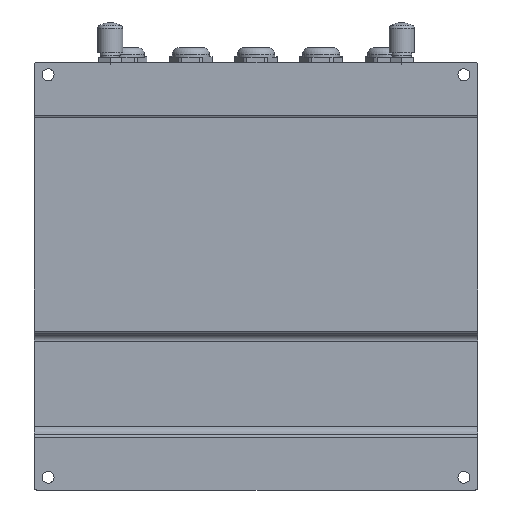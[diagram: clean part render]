
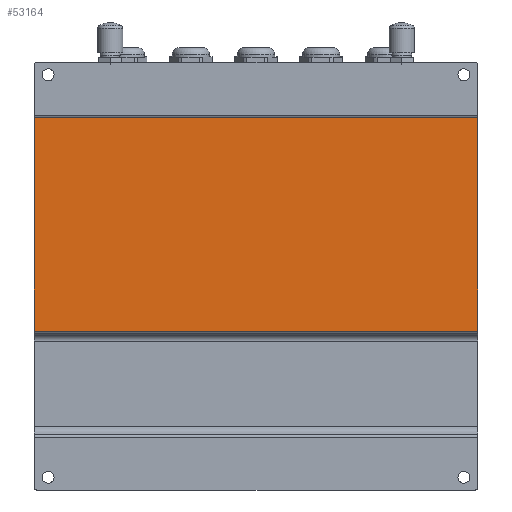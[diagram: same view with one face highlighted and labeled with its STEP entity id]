
A CAD part, front view. The second image highlights one B-rep face of the part: STEP entity #53164.
In plain terms, the highlighted planar face has unit normal (0, -1, 0).
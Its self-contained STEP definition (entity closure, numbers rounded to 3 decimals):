
#7402 = VECTOR ( 'NONE', #81694, 1000. ) ;
#14380 = FACE_OUTER_BOUND ( 'NONE', #128368, .T. ) ;
#15599 = CARTESIAN_POINT ( 'NONE',  ( -167., -19., 119.423 ) ) ;
#19069 = VECTOR ( 'NONE', #131143, 1000. ) ;
#37580 = EDGE_CURVE ( 'NONE', #41676, #154436, #71175, .T. ) ;
#41676 = VERTEX_POINT ( 'NONE', #135041 ) ;
#42512 = PLANE ( 'NONE',  #57173 ) ;
#53164 = ADVANCED_FACE ( 'NONE', ( #14380 ), #42512, .F. ) ;
#54483 = CARTESIAN_POINT ( 'NONE',  ( -167., -19., 119.423 ) ) ;
#54524 = DIRECTION ( 'NONE',  ( 0., 1., 0. ) ) ;
#57173 = AXIS2_PLACEMENT_3D ( 'NONE', #114373, #54524, #138542 ) ;
#59630 = VERTEX_POINT ( 'NONE', #116086 ) ;
#60858 = LINE ( 'NONE', #54483, #120937 ) ;
#66630 = DIRECTION ( 'NONE',  ( 0., 0., 1. ) ) ;
#66939 = CARTESIAN_POINT ( 'NONE',  ( 167., -19., 119.423 ) ) ;
#69656 = CARTESIAN_POINT ( 'NONE',  ( 167., -19., 119.423 ) ) ;
#71175 = LINE ( 'NONE', #69656, #7402 ) ;
#81694 = DIRECTION ( 'NONE',  ( 0., 0., 1. ) ) ;
#90290 = ORIENTED_EDGE ( 'NONE', *, *, #125431, .F. ) ;
#91371 = ORIENTED_EDGE ( 'NONE', *, *, #106346, .F. ) ;
#93698 = VERTEX_POINT ( 'NONE', #15599 ) ;
#106346 = EDGE_CURVE ( 'NONE', #93698, #154436, #142934, .T. ) ;
#109258 = EDGE_CURVE ( 'NONE', #59630, #41676, #115694, .T. ) ;
#114373 = CARTESIAN_POINT ( 'NONE',  ( -167., -19., 119.423 ) ) ;
#115694 = LINE ( 'NONE', #123573, #145964 ) ;
#116086 = CARTESIAN_POINT ( 'NONE',  ( -167., -19., -41.423 ) ) ;
#119025 = CARTESIAN_POINT ( 'NONE',  ( -167., -19., 119.423 ) ) ;
#120937 = VECTOR ( 'NONE', #66630, 1000. ) ;
#123573 = CARTESIAN_POINT ( 'NONE',  ( -167., -19., -41.423 ) ) ;
#125431 = EDGE_CURVE ( 'NONE', #59630, #93698, #60858, .T. ) ;
#128368 = EDGE_LOOP ( 'NONE', ( #149436, #91371, #90290, #133626 ) ) ;
#131143 = DIRECTION ( 'NONE',  ( 1., 0., 0. ) ) ;
#133626 = ORIENTED_EDGE ( 'NONE', *, *, #109258, .T. ) ;
#135041 = CARTESIAN_POINT ( 'NONE',  ( 167., -19., -41.423 ) ) ;
#135573 = DIRECTION ( 'NONE',  ( 1., 0., 0. ) ) ;
#138542 = DIRECTION ( 'NONE',  ( 0., 0., 1. ) ) ;
#142934 = LINE ( 'NONE', #119025, #19069 ) ;
#145964 = VECTOR ( 'NONE', #135573, 1000. ) ;
#149436 = ORIENTED_EDGE ( 'NONE', *, *, #37580, .T. ) ;
#154436 = VERTEX_POINT ( 'NONE', #66939 ) ;
